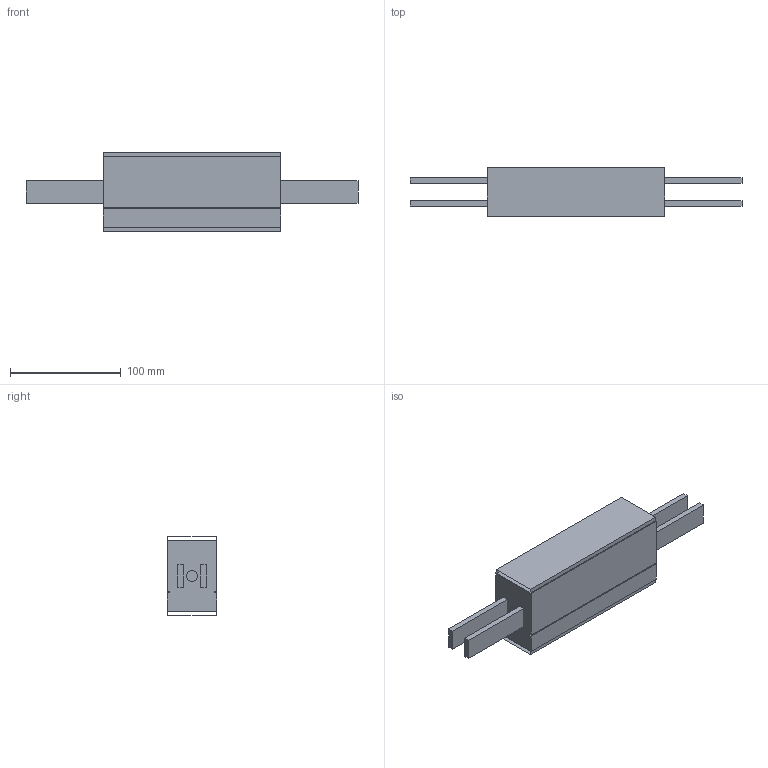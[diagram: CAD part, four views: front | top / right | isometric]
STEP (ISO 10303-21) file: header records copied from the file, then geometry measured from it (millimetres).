
FILE_DESCRIPTION(/* description */ ('Kettenmontageeinheit FS'),/* implementation_level */ '2;1');
FILE_NAME(/* name */ 'T:\vdz0\Step Daten Website\modulflex FS-System\Kettenmontageeinheit\FSCC 160_58959.stp',/* time_stamp */ '2024-08-22T09:41:52+02:00',/* author */ ('vdz0'),/* organization */ ('modular automation GmbH'),/* preprocessor_version */ 'ST-DEVELOPER v18.1',/* originating_system */ 'Autodesk Inventor 2021',/* authorisation */ '');
FILE_SCHEMA (('CONFIG_CONTROL_DESIGN'));
Length unit declared in the file: millimetre
Products named in the file (1): FSCC 160_58959
Bounding box: 300 x 45 x 72.2 mm (x, y, z)
Volume: 517600 mm3; surface area: 102142.3 mm2
Topology: 5 solids, 9 shells, 48 faces, 114 edges, 76 vertices
Faces by surface type: plane 46, cylinder 2
Full cylindrical faces by diameter (mm): 10 x2
Entity records: 1425 total; most frequent: CARTESIAN_POINT 239, DIRECTION 216, ORIENTED_EDGE 208, EDGE_CURVE 114, LINE 110, VECTOR 110, VERTEX_POINT 76, AXIS2_PLACEMENT_3D 53
